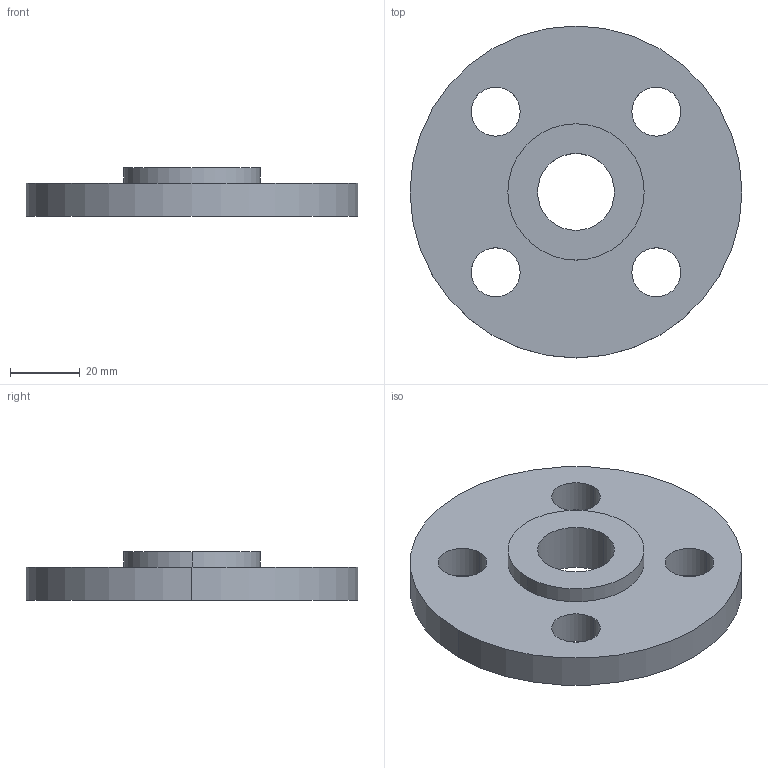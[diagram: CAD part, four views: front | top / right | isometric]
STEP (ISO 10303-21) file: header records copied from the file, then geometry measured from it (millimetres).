
FILE_DESCRIPTION (( 'STEP AP214' ), '1' );
FILE_NAME ('PN40 DN15 Type 01 - Type E Face.STEP', '2018-12-29T15:12:02', ( '' ), ( '' ), 'SwSTEP 2.0', 'SolidWorks 2019', '' );
FILE_SCHEMA (( 'AUTOMOTIVE_DESIGN' ));
Length unit declared in the file: millimetre
Products named in the file (1): PN40 DN15 Type 01 - Type E Face
Bounding box: 95 x 95 x 14 mm (x, y, z)
Volume: 61542.2 mm3; surface area: 18210.2 mm2
Topology: 1 solids, 1 shells, 17 faces, 42 edges, 28 vertices
Faces by surface type: cylinder 14, plane 3
Entity records: 578 total; most frequent: DIRECTION 106, CARTESIAN_POINT 88, ORIENTED_EDGE 84, AXIS2_PLACEMENT_3D 46, EDGE_CURVE 42, CIRCLE 28, VERTEX_POINT 28, EDGE_LOOP 28
